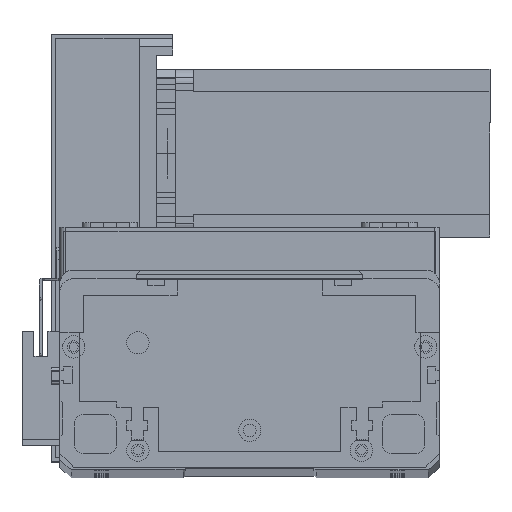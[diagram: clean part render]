
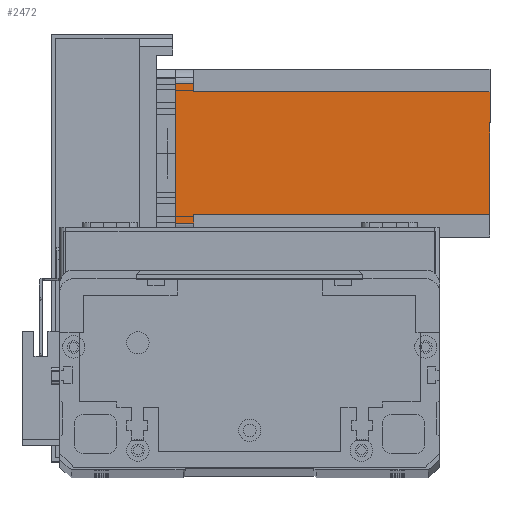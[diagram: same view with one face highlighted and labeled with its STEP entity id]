
A CAD part, top view. The second image highlights one B-rep face of the part: STEP entity #2472.
In plain terms, the highlighted planar face has unit normal (0, 0, 1) as drawn and (0, -1, 0) by its records, which use the part's own axes.
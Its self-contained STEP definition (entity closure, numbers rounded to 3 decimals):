
#2120 = VERTEX_POINT ( 'NONE', #20250 ) ;
#2206 = VERTEX_POINT ( 'NONE', #22256 ) ;
#2450 = VECTOR ( 'NONE', #25559, 1000. ) ;
#2472 = ADVANCED_FACE ( 'NONE', ( #21833 ), #26829, .T. ) ;
#2547 = EDGE_CURVE ( 'NONE', #3159, #2120, #25763, .T. ) ;
#2935 = DIRECTION ( 'NONE',  ( 0., 0., 1. ) ) ;
#3159 = VERTEX_POINT ( 'NONE', #20688 ) ;
#3161 = DIRECTION ( 'NONE',  ( 0., 0., -1. ) ) ;
#3514 = DIRECTION ( 'NONE',  ( -1., 0., 0. ) ) ;
#3539 = VECTOR ( 'NONE', #12206, 1000. ) ;
#3655 = VERTEX_POINT ( 'NONE', #12662 ) ;
#3828 = CARTESIAN_POINT ( 'NONE',  ( 55., 0., 0. ) ) ;
#4242 = VECTOR ( 'NONE', #12890, 1000. ) ;
#4330 = CARTESIAN_POINT ( 'NONE',  ( 8., 0., -6.5 ) ) ;
#4839 = LINE ( 'NONE', #17023, #17148 ) ;
#7352 = VERTEX_POINT ( 'NONE', #14322 ) ;
#7505 = EDGE_CURVE ( 'NONE', #3655, #18049, #27943, .T. ) ;
#8285 = LINE ( 'NONE', #11449, #26617 ) ;
#11449 = CARTESIAN_POINT ( 'NONE',  ( 8., 0., -112.5 ) ) ;
#12206 = DIRECTION ( 'NONE',  ( 0., 0., -1. ) ) ;
#12424 = VERTEX_POINT ( 'NONE', #22187 ) ;
#12662 = CARTESIAN_POINT ( 'NONE',  ( 5., 0., 0. ) ) ;
#12717 = EDGE_CURVE ( 'NONE', #2206, #7352, #26949, .T. ) ;
#12890 = DIRECTION ( 'NONE',  ( 1., 0., 0. ) ) ;
#12924 = CARTESIAN_POINT ( 'NONE',  ( 0., 0., 0. ) ) ;
#13540 = VECTOR ( 'NONE', #19458, 1000. ) ;
#14107 = CARTESIAN_POINT ( 'NONE',  ( 0., 0., -112.5 ) ) ;
#14309 = ORIENTED_EDGE ( 'NONE', *, *, #14565, .T. ) ;
#14322 = CARTESIAN_POINT ( 'NONE',  ( 52., 0., -112.5 ) ) ;
#14390 = ORIENTED_EDGE ( 'NONE', *, *, #7505, .F. ) ;
#14565 = EDGE_CURVE ( 'NONE', #2120, #18049, #20470, .T. ) ;
#15847 = LINE ( 'NONE', #28215, #3539 ) ;
#16371 = EDGE_CURVE ( 'NONE', #3159, #7352, #4839, .T. ) ;
#16507 = CARTESIAN_POINT ( 'NONE',  ( 52., 0., -6.5 ) ) ;
#17023 = CARTESIAN_POINT ( 'NONE',  ( 52., 0., -112.5 ) ) ;
#17148 = VECTOR ( 'NONE', #3161, 1000. ) ;
#18049 = VERTEX_POINT ( 'NONE', #3828 ) ;
#18479 = VECTOR ( 'NONE', #3514, 1000. ) ;
#18993 = ORIENTED_EDGE ( 'NONE', *, *, #22848, .T. ) ;
#19458 = DIRECTION ( 'NONE',  ( 1., 0., 0. ) ) ;
#19683 = CARTESIAN_POINT ( 'NONE',  ( 8., 0., -6.5 ) ) ;
#19868 = EDGE_CURVE ( 'NONE', #24370, #12424, #24596, .T. ) ;
#20250 = CARTESIAN_POINT ( 'NONE',  ( 55., 0., -6.5 ) ) ;
#20470 = LINE ( 'NONE', #28279, #25840 ) ;
#20591 = DIRECTION ( 'NONE',  ( 0., 0., 1. ) ) ;
#20688 = CARTESIAN_POINT ( 'NONE',  ( 52., 0., -6.5 ) ) ;
#21833 = FACE_OUTER_BOUND ( 'NONE', #29594, .T. ) ;
#22117 = ORIENTED_EDGE ( 'NONE', *, *, #12717, .T. ) ;
#22187 = CARTESIAN_POINT ( 'NONE',  ( 5., 0., -6.5 ) ) ;
#22256 = CARTESIAN_POINT ( 'NONE',  ( 8., 0., -112.5 ) ) ;
#22547 = ORIENTED_EDGE ( 'NONE', *, *, #28040, .F. ) ;
#22848 = EDGE_CURVE ( 'NONE', #3655, #12424, #15847, .T. ) ;
#23302 = ORIENTED_EDGE ( 'NONE', *, *, #19868, .F. ) ;
#23474 = ORIENTED_EDGE ( 'NONE', *, *, #2547, .T. ) ;
#23531 = AXIS2_PLACEMENT_3D ( 'NONE', #25150, #24667, #24462 ) ;
#24250 = ORIENTED_EDGE ( 'NONE', *, *, #16371, .F. ) ;
#24370 = VERTEX_POINT ( 'NONE', #4330 ) ;
#24462 = DIRECTION ( 'NONE',  ( 0., 0., -1. ) ) ;
#24596 = LINE ( 'NONE', #19683, #18479 ) ;
#24667 = DIRECTION ( 'NONE',  ( 0., -1., 0. ) ) ;
#25150 = CARTESIAN_POINT ( 'NONE',  ( 0., 0., -112.5 ) ) ;
#25559 = DIRECTION ( 'NONE',  ( 1., 0., 0. ) ) ;
#25763 = LINE ( 'NONE', #16507, #13540 ) ;
#25840 = VECTOR ( 'NONE', #2935, 1000. ) ;
#26617 = VECTOR ( 'NONE', #20591, 1000. ) ;
#26829 = PLANE ( 'NONE',  #23531 ) ;
#26949 = LINE ( 'NONE', #14107, #2450 ) ;
#27943 = LINE ( 'NONE', #12924, #4242 ) ;
#28040 = EDGE_CURVE ( 'NONE', #2206, #24370, #8285, .T. ) ;
#28215 = CARTESIAN_POINT ( 'NONE',  ( 5., 0., -112.5 ) ) ;
#28279 = CARTESIAN_POINT ( 'NONE',  ( 55., 0., -112.5 ) ) ;
#29594 = EDGE_LOOP ( 'NONE', ( #23474, #14309, #14390, #18993, #23302, #22547, #22117, #24250 ) ) ;
